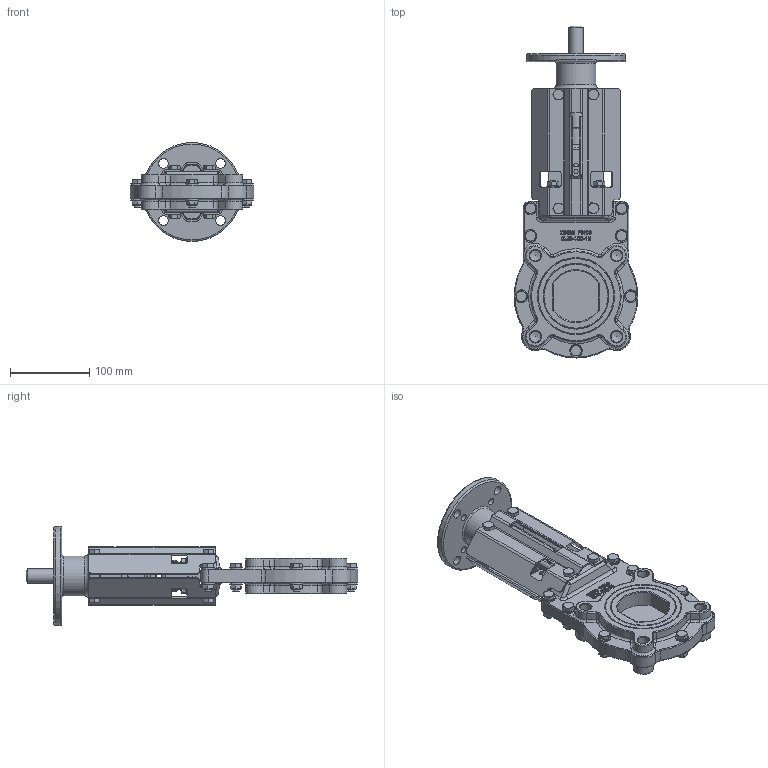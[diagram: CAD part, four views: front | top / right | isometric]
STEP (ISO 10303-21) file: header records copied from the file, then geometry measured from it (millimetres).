
FILE_DESCRIPTION(/* description */ (''),/* implementation_level */ '2;1');
FILE_NAME(/* name */ 'Rising stem knife gate valve with top flange DN65-10.stp',/* time_stamp */ '2025-04-21T17:04:59+08:00',/* author */ (''),/* organization */ (''),/* preprocessor_version */ 'ST-DEVELOPER v15',/* originating_system */ 'SIEMENS PLM Software NX 10.0',/* authorisation */ '');
FILE_SCHEMA (('AP203_CONFIGURATION_CONTROLLED_3D_DESIGN_OF_MECHANICAL_PARTS_AND_ASSEMBLIES_MIM_LF { 1 0 10303 403 2 1 2}'));
Products named in the file (1): Admi256412D81ns1
Bounding box: 155.99 x 419 x 125 mm (x, y, z)
Volume: 1110655.7 mm3; surface area: 274169 mm2
Topology: 1 solids, 19 shells, 1990 faces, 4989 edges, 3092 vertices
Faces by surface type: plane 778, cylinder 510, cone 186, bspline 184, torus 150, extrusion 138, sphere 44
Full cylindrical faces by diameter (mm): 1.7 x4, 5.2 x1, 6.5 x2, 7.323 x11, 8 x18, 8.4 x18, 9 x8, 11.4 x15, 12 x4, 13.8 x2, 13.835 x8, 14.5 x1, 16 x24, 18 x1, 25 x1, 40 x1, 50 x1, 125 x1
Entity records: 62416 total; most frequent: CARTESIAN_POINT 18205, ORIENTED_EDGE 9240, DIRECTION 8194, EDGE_CURVE 4620, AXIS2_PLACEMENT_3D 3031, VERTEX_POINT 3010, EDGE_LOOP 2416, VECTOR 2132
